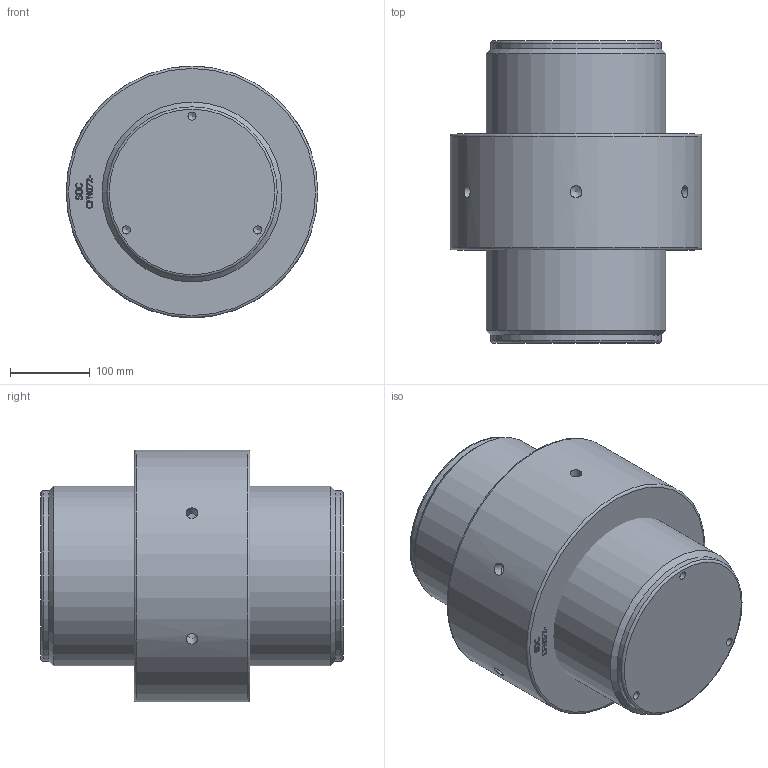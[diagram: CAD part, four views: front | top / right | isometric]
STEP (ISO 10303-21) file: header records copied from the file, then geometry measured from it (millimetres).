
FILE_DESCRIPTION(/* description */ (''),/* implementation_level */ '2;1');
FILE_NAME(/* name */ 'F:\Clienti LS\Redaelli\CYT\CYT\ARRNGEMENT\CYT072 61 061 0.stp',/* time_stamp */ '2021-05-09T08:49:19+02:00',/* author */ ('ranca'),/* organization */ (''),/* preprocessor_version */ 'ST-DEVELOPER v16.13',/* originating_system */ 'Autodesk Inventor 2018',/* authorisation */ '');
FILE_SCHEMA (('AUTOMOTIVE_DESIGN { 1 0 10303 214 3 1 1 }'));
Length unit declared in the file: millimetre
Products named in the file (3): CYT012-61-061-0; CYT012-61-061-0_1; CYT012-61-061-0_DADO
Assembly tree (2 placements, depth 2):
  CYT012-61-061-0
    CYT012-61-061-0_1
    CYT012-61-061-0_DADO
Bounding box: 315 x 378 x 315 mm (x, y, z)
Volume: 20753453 mm3; surface area: 667824.6 mm2
Topology: 2 solids, 2 shells, 326 faces, 890 edges, 592 vertices
Faces by surface type: bspline 170, plane 127, cylinder 14, cone 11, torus 4
Full cylindrical faces by diameter (mm): 10.106 x3, 15 x6, 213 x2, 218.505 x1, 225 x1, 315 x1
Entity records: 11132 total; most frequent: CARTESIAN_POINT 4172, ORIENTED_EDGE 1690, EDGE_CURVE 845, DIRECTION 841, VERTEX_POINT 576, LINE 467, VECTOR 467, EDGE_LOOP 381
